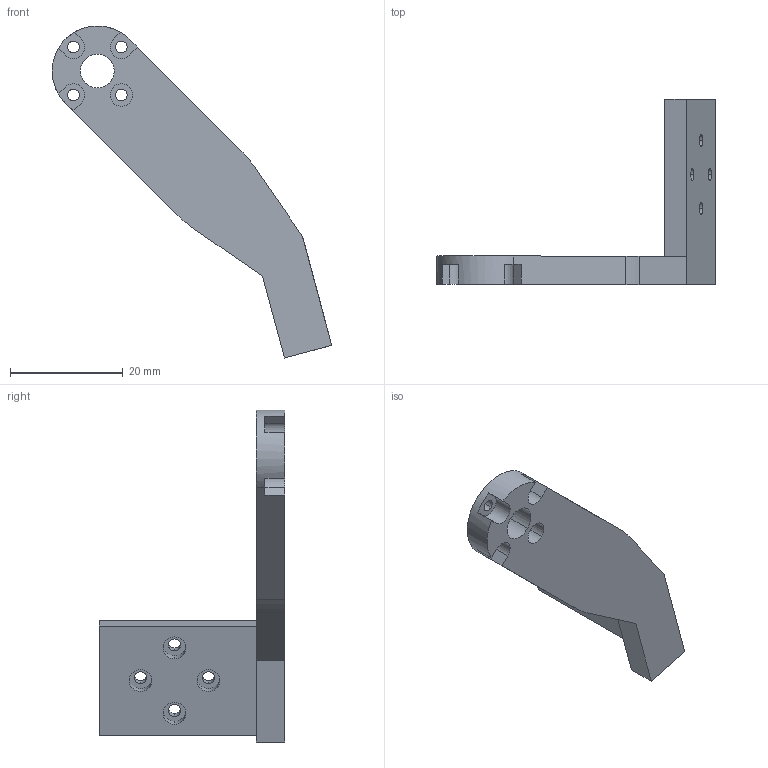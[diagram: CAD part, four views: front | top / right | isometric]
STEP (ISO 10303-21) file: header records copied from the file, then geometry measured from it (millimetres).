
FILE_DESCRIPTION (( 'STEP AP214' ), '1' );
FILE_NAME ('thumb_4.STEP', '2026-09-17T12:55:39', ( '' ), ( '' ), 'SwSTEP 2.0', 'SolidWorks 2024', '' );
FILE_SCHEMA (( 'AUTOMOTIVE_DESIGN' ));
Length unit declared in the file: millimetre
Products named in the file (2): thumb_4; Link2改_默认
Assembly tree (1 placements, depth 2):
  thumb_4
    Link2改_默认
Bounding box: 49.46 x 32.8 x 58.77 mm (x, y, z)
Volume: 6461.6 mm3; surface area: 4314.4 mm2
Topology: 1 solids, 1 shells, 60 faces, 158 edges, 105 vertices
Faces by surface type: cylinder 34, plane 26
Entity records: 1977 total; most frequent: DIRECTION 358, CARTESIAN_POINT 327, ORIENTED_EDGE 316, EDGE_CURVE 158, AXIS2_PLACEMENT_3D 136, VERTEX_POINT 105, LINE 86, VECTOR 86
